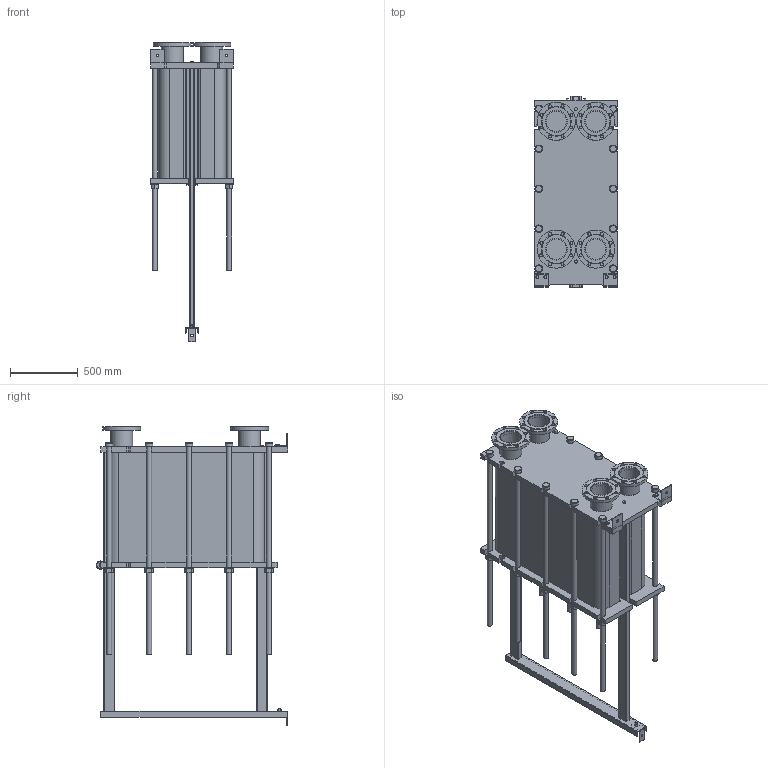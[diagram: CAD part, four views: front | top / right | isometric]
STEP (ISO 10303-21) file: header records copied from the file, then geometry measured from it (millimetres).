
FILE_DESCRIPTION(/* description */ (''),/* implementation_level */ '2;1');
FILE_NAME(/* name */ 'C:\Users\zhuro\Desktop\ENCO\TO\ЭН-041\ЭН-0,5-041-235-1.stp',/* time_stamp */ '2022-06-06T11:08:08+03:00',/* author */ ('zhuro'),/* organization */ (''),/* preprocessor_version */ 'ST-DEVELOPER v18.1',/* originating_system */ 'Autodesk Inventor 2022',/* authorisation */ '');
FILE_SCHEMA (('AUTOMOTIVE_DESIGN { 1 0 10303 214 3 1 1 }'));
Length unit declared in the file: millimetre
Products named in the file (1): ЭН-0,5-041-235-1
Bounding box: 610 x 1406.5 x 2202.5 mm (x, y, z)
Volume: 545955971.1 mm3; surface area: 12001150.4 mm2
Topology: 52 solids, 52 shells, 711 faces, 1696 edges, 1094 vertices
Faces by surface type: plane 487, cylinder 177, cone 41, torus 6
Full cylindrical faces by diameter (mm): 8 x4, 10 x2, 16 x8, 18 x3, 22 x32, 36 x24, 50 x1, 54 x10, 60 x12, 151 x4, 161 x8, 280 x4
Entity records: 22667 total; most frequent: CARTESIAN_POINT 5230, DIRECTION 3644, ORIENTED_EDGE 3392, EDGE_CURVE 1696, AXIS2_PLACEMENT_3D 1272, LINE 1100, VECTOR 1100, VERTEX_POINT 1094
